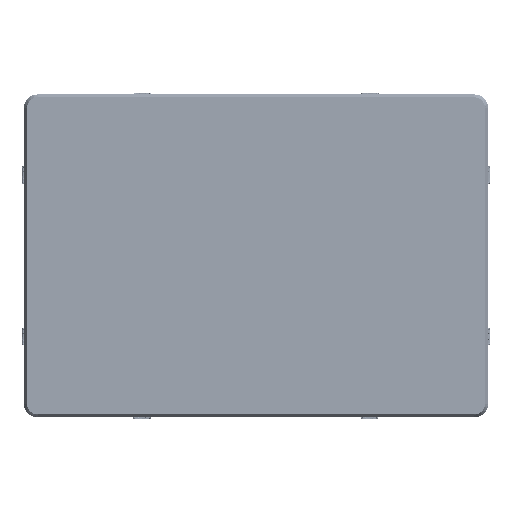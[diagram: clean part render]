
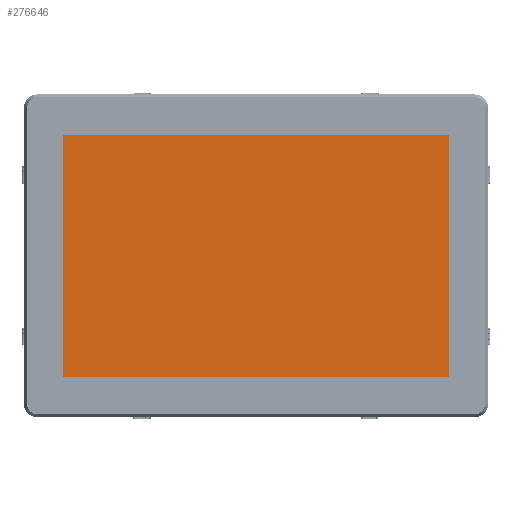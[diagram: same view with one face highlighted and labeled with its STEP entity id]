
A CAD part, top view. The second image highlights one B-rep face of the part: STEP entity #276646.
In plain terms, the highlighted planar face has unit normal (0, 0, 1).
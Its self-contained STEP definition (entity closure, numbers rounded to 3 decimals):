
#37925=LINE('',#478503,#65615);
#37928=LINE('',#478509,#65618);
#37931=LINE('',#478515,#65621);
#37934=LINE('',#478519,#65624);
#65615=VECTOR('',#378295,10.);
#65618=VECTOR('',#378300,10.);
#65621=VECTOR('',#378305,10.);
#65624=VECTOR('',#378310,10.);
#81449=FACE_OUTER_BOUND('',#99532,.T.);
#99532=EDGE_LOOP('',(#241474,#241475,#241476,#241477));
#132028=VERTEX_POINT('',#478500);
#132029=VERTEX_POINT('',#478502);
#132031=VERTEX_POINT('',#478508);
#132033=VERTEX_POINT('',#478514);
#168741=EDGE_CURVE('',#132029,#132028,#37925,.T.);
#168744=EDGE_CURVE('',#132031,#132029,#37928,.T.);
#168747=EDGE_CURVE('',#132033,#132031,#37931,.T.);
#168750=EDGE_CURVE('',#132028,#132033,#37934,.T.);
#241474=ORIENTED_EDGE('',*,*,#168750,.T.);
#241475=ORIENTED_EDGE('',*,*,#168747,.T.);
#241476=ORIENTED_EDGE('',*,*,#168744,.T.);
#241477=ORIENTED_EDGE('',*,*,#168741,.T.);
#254773=PLANE('',#304284);
#276646=ADVANCED_FACE('',(#81449),#254773,.T.);
#304284=AXIS2_PLACEMENT_3D('',#478520,#378311,#378312);
#378295=DIRECTION('',(1.,0.,0.));
#378300=DIRECTION('',(0.,-1.,0.));
#378305=DIRECTION('',(-1.,0.,0.));
#378310=DIRECTION('',(0.,1.,0.));
#378311=DIRECTION('center_axis',(0.,0.,1.));
#378312=DIRECTION('ref_axis',(1.,0.,0.));
#478500=CARTESIAN_POINT('',(130.76,-82.2,1.151));
#478502=CARTESIAN_POINT('',(-131.56,-82.2,1.151));
#478503=CARTESIAN_POINT('',(-131.56,-82.2,1.151));
#478508=CARTESIAN_POINT('',(-131.56,82.2,1.151));
#478509=CARTESIAN_POINT('',(-131.56,82.2,1.151));
#478514=CARTESIAN_POINT('',(130.76,82.2,1.151));
#478515=CARTESIAN_POINT('',(130.76,82.2,1.151));
#478519=CARTESIAN_POINT('',(130.76,-82.2,1.151));
#478520=CARTESIAN_POINT('Origin',(-0.4,0.,
1.151));
